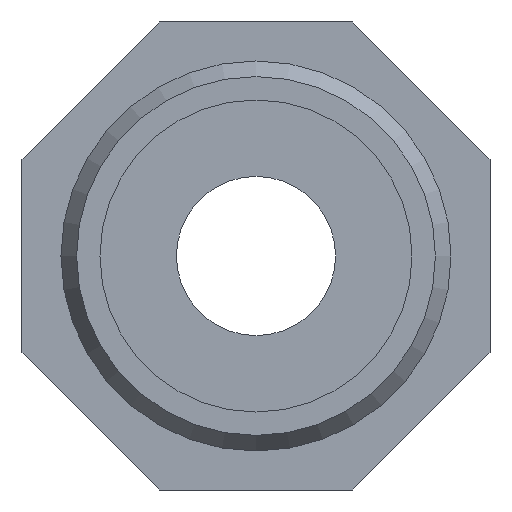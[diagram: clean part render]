
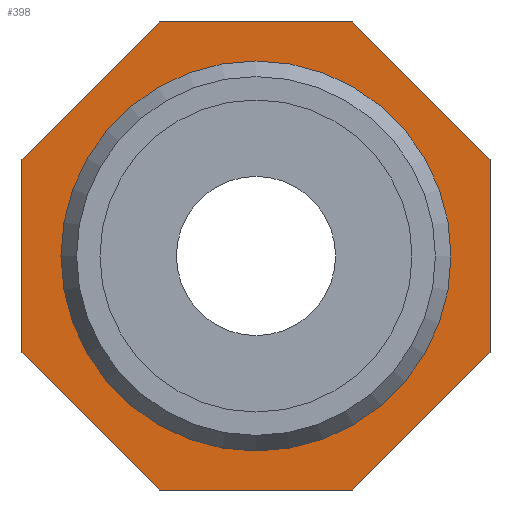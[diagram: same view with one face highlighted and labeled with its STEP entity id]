
A CAD part, front view. The second image highlights one B-rep face of the part: STEP entity #398.
In plain terms, the highlighted planar face has unit normal (0, -1, 0).
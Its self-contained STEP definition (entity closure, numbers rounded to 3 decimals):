
#18=LINE('',#3762,#45);
#19=LINE('',#3764,#46);
#20=LINE('',#3766,#47);
#21=LINE('',#3768,#48);
#22=LINE('',#3770,#49);
#23=LINE('',#3772,#50);
#24=LINE('',#3774,#51);
#25=LINE('',#3775,#52);
#45=VECTOR('',#499,12.426);
#46=VECTOR('',#500,12.426);
#47=VECTOR('',#501,12.426);
#48=VECTOR('',#502,12.426);
#49=VECTOR('',#503,12.426);
#50=VECTOR('',#504,12.426);
#51=VECTOR('',#505,12.426);
#52=VECTOR('',#506,12.426);
#90=PLANE('',#434);
#114=FACE_BOUND('',#168,.T.);
#132=FACE_OUTER_BOUND('',#167,.T.);
#167=EDGE_LOOP('',(#327,#328,#329,#330,#331,#332,#333,#334));
#168=EDGE_LOOP('',(#335));
#181=CIRCLE('',#414,12.5);
#194=VERTEX_POINT('',#548);
#212=VERTEX_POINT('',#3760);
#213=VERTEX_POINT('',#3761);
#214=VERTEX_POINT('',#3763);
#215=VERTEX_POINT('',#3765);
#216=VERTEX_POINT('',#3767);
#217=VERTEX_POINT('',#3769);
#218=VERTEX_POINT('',#3771);
#219=VERTEX_POINT('',#3773);
#230=EDGE_CURVE('',#194,#194,#181,.T.);
#255=EDGE_CURVE('',#212,#213,#18,.T.);
#256=EDGE_CURVE('',#213,#214,#19,.T.);
#257=EDGE_CURVE('',#214,#215,#20,.T.);
#258=EDGE_CURVE('',#215,#216,#21,.T.);
#259=EDGE_CURVE('',#216,#217,#22,.T.);
#260=EDGE_CURVE('',#217,#218,#23,.T.);
#261=EDGE_CURVE('',#218,#219,#24,.T.);
#262=EDGE_CURVE('',#219,#212,#25,.T.);
#327=ORIENTED_EDGE('',*,*,#255,.T.);
#328=ORIENTED_EDGE('',*,*,#256,.T.);
#329=ORIENTED_EDGE('',*,*,#257,.T.);
#330=ORIENTED_EDGE('',*,*,#258,.T.);
#331=ORIENTED_EDGE('',*,*,#259,.T.);
#332=ORIENTED_EDGE('',*,*,#260,.T.);
#333=ORIENTED_EDGE('',*,*,#261,.T.);
#334=ORIENTED_EDGE('',*,*,#262,.T.);
#335=ORIENTED_EDGE('',*,*,#230,.T.);
#398=ADVANCED_FACE('',(#132,#114),#90,.T.);
#414=AXIS2_PLACEMENT_3D('',#549,#454,#455);
#434=AXIS2_PLACEMENT_3D('',#3759,#497,#498);
#454=DIRECTION('center_axis',(0.,1.,0.));
#455=DIRECTION('ref_axis',(-1.,0.,0.));
#497=DIRECTION('center_axis',(0.,-1.,0.));
#498=DIRECTION('ref_axis',(0.,0.,-1.));
#499=DIRECTION('',(-1.,0.,0.));
#500=DIRECTION('',(-0.707,0.,-0.707));
#501=DIRECTION('',(0.,0.,-1.));
#502=DIRECTION('',(0.707,0.,-0.707));
#503=DIRECTION('',(1.,0.,0.));
#504=DIRECTION('',(0.707,0.,0.707));
#505=DIRECTION('',(0.,0.,1.));
#506=DIRECTION('',(-0.707,0.,0.707));
#548=CARTESIAN_POINT('',(12.5,-6.,0.));
#549=CARTESIAN_POINT('Origin',(0.,-6.,0.));
#3759=CARTESIAN_POINT('Origin',(0.,-6.,0.));
#3760=CARTESIAN_POINT('',(6.213,-6.,15.));
#3761=CARTESIAN_POINT('',(-6.213,-6.,15.));
#3762=CARTESIAN_POINT('',(6.213,-6.,15.));
#3763=CARTESIAN_POINT('',(-15.,-6.,6.213));
#3764=CARTESIAN_POINT('',(-6.213,-6.,15.));
#3765=CARTESIAN_POINT('',(-15.,-6.,-6.213));
#3766=CARTESIAN_POINT('',(-15.,-6.,6.213));
#3767=CARTESIAN_POINT('',(-6.213,-6.,-15.));
#3768=CARTESIAN_POINT('',(-15.,-6.,-6.213));
#3769=CARTESIAN_POINT('',(6.213,-6.,-15.));
#3770=CARTESIAN_POINT('',(-6.213,-6.,-15.));
#3771=CARTESIAN_POINT('',(15.,-6.,-6.213));
#3772=CARTESIAN_POINT('',(6.213,-6.,-15.));
#3773=CARTESIAN_POINT('',(15.,-6.,6.213));
#3774=CARTESIAN_POINT('',(15.,-6.,-6.213));
#3775=CARTESIAN_POINT('',(15.,-6.,6.213));
